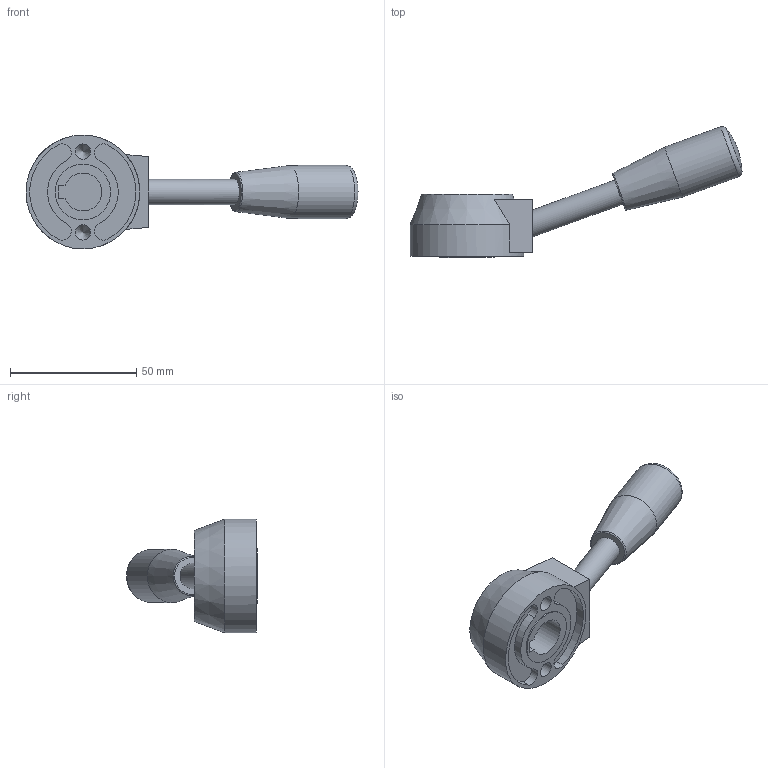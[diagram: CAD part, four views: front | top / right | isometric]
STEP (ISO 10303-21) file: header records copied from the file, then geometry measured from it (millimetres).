
FILE_DESCRIPTION( ( 'STEP AP203' ), '1' );
FILE_NAME( 'C:/Temp/Ganter_Step_05_03_2020/data/2_1/gn_512/gn_512_k/Control lever GN 512-45-K15.stp', '2020-03-05T11:51:40', ( 'License CC BY-ND 4.0' ), ( 'CADENAS' ), ' ', 'PARTsolutions', ' ' );
FILE_SCHEMA( ( 'CONFIG_CONTROL_DESIGN' ) );
Length unit declared in the file: millimetre
Products named in the file (1): _Control lever GN 512-45-K15
Bounding box: 131.34 x 51.82 x 45 mm (x, y, z)
Volume: 49701.1 mm3; surface area: 13766.1 mm2
Topology: 1 solids, 1 shells, 39 faces, 88 edges, 57 vertices
Faces by surface type: plane 16, cylinder 16, cone 4, torus 2, sphere 1
Full cylindrical faces by diameter (mm): 6 x2, 10 x1, 21 x1, 22 x1, 25 x1, 45 x1
Entity records: 1042 total; most frequent: DIRECTION 184, CARTESIAN_POINT 176, ORIENTED_EDGE 136, AXIS2_PLACEMENT_3D 78, EDGE_CURVE 68, EDGE_LOOP 59, VERTEX_POINT 54, FACE_OUTER_BOUND 48
